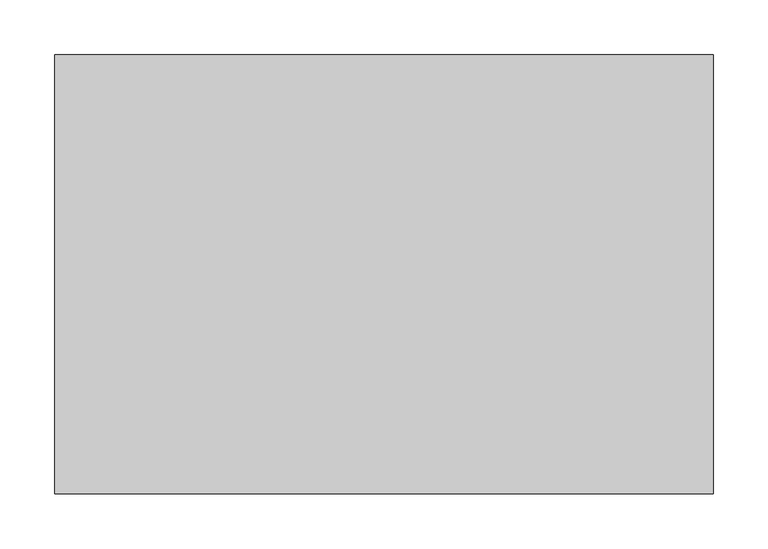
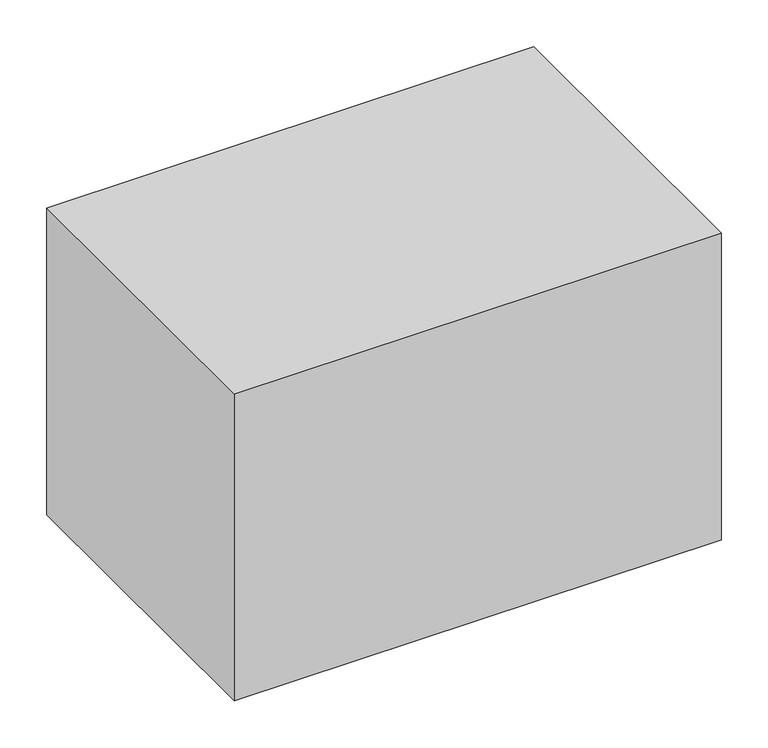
"""IFC4 building model written with IfcOpenShell, lengths in millimetres: proxy geometry, Movél19 : Movél."""

import ifcopenshell
import ifcopenshell.guid

model = None  # the IFC model being written
_history = None  # IfcOwnerHistory: only IFC2X3 demands one
_inside = {}  # id of a spatial element -> (the spatial element, [elements in it])
_under = {}  # id of a project, library or spatial element -> (it, [spatial elements below it])
_declared = {}  # id of a project -> (the project, [libraries it declares])
_typed = {}  # id of a type object -> (the type object, [elements of that type])
_made_of = {}  # id of a material, layer set ... -> (it, [elements and type objects made of it])


def new_model(schema):
    """Start an empty IFC model of exactly this schema.

    Asked for "IFC4X3", IfcOpenShell would pick the latest addendum, in which some entities
    have other attributes; the version numbers below select the first issue.
    IFC2X3 requires an IfcOwnerHistory on every rooted entity: one is made here for all.
    """
    global model, _history
    if schema == "IFC4X3":
        model = ifcopenshell.file(schema_version=(4, 3, 0, 0))
    else:
        model = ifcopenshell.file(schema=schema)
    _inside.clear()
    _under.clear()
    _declared.clear()
    _typed.clear()
    _made_of.clear()
    _history = None
    if model.schema == "IFC2X3":
        org = make("IfcOrganization", Name="unknown")
        user = make(
            "IfcPersonAndOrganization",
            ThePerson=make("IfcPerson", FamilyName="unknown"),
            TheOrganization=org,
        )
        app = make(
            "IfcApplication",
            ApplicationDeveloper=org,
            Version="unknown",
            ApplicationFullName="unknown",
            ApplicationIdentifier="unknown",
        )
        _history = make(
            "IfcOwnerHistory",
            OwningUser=user,
            OwningApplication=app,
            ChangeAction="ADDED",
            CreationDate=0,
        )
    return model


def make(cls, **values):
    """One entity of the class cls with the attributes given. An attribute that is None is left unset."""
    return model.create_entity(
        cls, **{name: value for name, value in values.items() if value is not None}
    )


def rooted(cls, **values):
    """An entity with a GlobalId (a new one), such as an element, a storey or a relation."""
    return make(cls, GlobalId=ifcopenshell.guid.new(), OwnerHistory=_history, **values)


def si_unit(unit_type, name, prefix=None):
    """IfcSIUnit, for example si_unit("LENGTHUNIT", "METRE", prefix="MILLI")."""
    return make("IfcSIUnit", UnitType=unit_type, Prefix=prefix, Name=name)


def assignment(units):
    """IfcUnitAssignment: the units of a project."""
    return None if units is None else make("IfcUnitAssignment", Units=units)


def point(xyz):
    """IfcCartesianPoint."""
    return None if xyz is None else make("IfcCartesianPoint", Coordinates=xyz)


def direction(xyz):
    """IfcDirection."""
    return None if xyz is None else make("IfcDirection", DirectionRatios=xyz)


def frame(location, z_axis=None, x_axis=None):
    """IfcAxis2Placement3D, a coordinate frame: its origin and axes. An axis left out is left unset."""
    return make(
        "IfcAxis2Placement3D",
        Location=point(location),
        Axis=direction(z_axis),
        RefDirection=direction(x_axis),
    )


def origin():
    """The frame at (0, 0, 0) with its axes left unset."""
    return frame((0.0, 0.0, 0.0))


def place(relative_to, where):
    """IfcLocalPlacement: puts the frame where relative to a parent placement (None: the world)."""
    return make(
        "IfcLocalPlacement", PlacementRelTo=relative_to, RelativePlacement=where
    )


def context(
    kind, dimensions, precision=None, world=None, true_north=None, identifier=None
):
    """IfcGeometricRepresentationContext, for example the 3D "Model" context."""
    return make(
        "IfcGeometricRepresentationContext",
        ContextIdentifier=identifier,
        ContextType=kind,
        CoordinateSpaceDimension=dimensions,
        Precision=precision,
        WorldCoordinateSystem=world,
        TrueNorth=true_north,
    )


def project(units=None, contexts=None):
    """IfcProject with its units and contexts."""
    return rooted(
        "IfcProject",
        Name="project",
        RepresentationContexts=contexts,
        UnitsInContext=assignment(units),
    )


def spatial(cls, under=None, at=None, **own):
    """A site, building, storey or space (cls), placed at a placement, below another one or the project."""
    s = rooted(cls, ObjectPlacement=at, **own)
    if under is not None:
        _under.setdefault(under.id(), (under, []))[1].append(s)
    return s


def polyline(points):
    """IfcPolyline through the points."""
    return make("IfcPolyline", Points=[point(p) for p in points])


def outline(outer, holes=None, kind="AREA"):
    """IfcArbitraryClosedProfileDef: a profile drawn as a closed curve; with holes, ...WithVoids."""
    if holes is None:
        return make("IfcArbitraryClosedProfileDef", ProfileType=kind, OuterCurve=outer)
    return make(
        "IfcArbitraryProfileDefWithVoids",
        ProfileType=kind,
        OuterCurve=outer,
        InnerCurves=holes,
    )


def extrude(swept, where, along, depth):
    """IfcExtrudedAreaSolid: the profile swept, set in the frame where, extruded along a direction by depth."""
    return make(
        "IfcExtrudedAreaSolid",
        SweptArea=swept,
        Position=where,
        ExtrudedDirection=direction(along),
        Depth=depth,
    )


def shape(context_of_items, identifier, shape_type, items):
    """IfcShapeRepresentation: the items that make up one representation, for example the "Body"."""
    return make(
        "IfcShapeRepresentation",
        ContextOfItems=context_of_items,
        RepresentationIdentifier=identifier,
        RepresentationType=shape_type,
        Items=items,
    )


def source(mapping_origin, context_of_items, identifier, shape_type, items):
    """IfcRepresentationMap: a shape defined once, which mapped items show again and again."""
    return make(
        "IfcRepresentationMap",
        MappingOrigin=mapping_origin,
        MappedRepresentation=shape(context_of_items, identifier, shape_type, items),
    )


def transform(
    local_origin,
    x_axis=None,
    y_axis=None,
    z_axis=None,
    scale=None,
    scale2=None,
    scale3=None,
    uniform=True,
):
    """IfcCartesianTransformationOperator3D, or its non-uniform kind. x_axis, y_axis, z_axis: its Axis1, 2, 3."""
    if uniform:
        return make(
            "IfcCartesianTransformationOperator3D",
            Axis1=direction(x_axis),
            Axis2=direction(y_axis),
            LocalOrigin=point(local_origin),
            Scale=scale,
            Axis3=direction(z_axis),
        )
    return make(
        "IfcCartesianTransformationOperator3DnonUniform",
        Axis1=direction(x_axis),
        Axis2=direction(y_axis),
        LocalOrigin=point(local_origin),
        Scale=scale,
        Axis3=direction(z_axis),
        Scale2=scale2,
        Scale3=scale3,
    )


def mapped(mapping_source, mapping_target):
    """IfcMappedItem: shows the shape of a source again, moved by a transform."""
    return make(
        "IfcMappedItem", MappingSource=mapping_source, MappingTarget=mapping_target
    )


def made_of(thing, what):
    """Note that an element or type object is made of a material, layer set ...; save() writes the relation."""
    if what is not None:
        _made_of.setdefault(what.id(), (what, []))[1].append(thing)
    return thing


def element(
    cls,
    number,
    at=None,
    inside=None,
    cuts=None,
    type_object=None,
    material=None,
    context=None,
    identifier="Body",
    shape_type=None,
    held_by="IfcProductDefinitionShape",
    body=None,
    shapes=None,
    **own,
):
    """One element of the class cls, such as IfcWall. Its Tag is "e" and its number.

    at: its placement. inside: the storey or other place that contains it. cuts: it is an
    opening in that element (IfcRelVoidsElement). A single representation is given by context,
    identifier, shape_type and body (its items); several are given by shapes. held_by: the class
    of the entity that holds the representations. save() writes the other relations.
    """
    e = rooted(cls, Tag="e%d" % number, ObjectPlacement=at, **own)
    if body is not None:
        shapes = [shape(context, identifier, shape_type, body)]
    if shapes is not None:
        e.Representation = make(held_by, Representations=shapes)
    if inside is not None:
        _inside.setdefault(inside.id(), (inside, []))[1].append(e)
    if cuts is not None:
        rooted(
            "IfcRelVoidsElement", RelatingBuildingElement=cuts, RelatedOpeningElement=e
        )
    if type_object is not None:
        _typed.setdefault(type_object.id(), (type_object, []))[1].append(e)
    return made_of(e, material)


def aggregate(whole, parts):
    """IfcRelAggregates: a whole, such as a stair, and the parts it consists of."""
    return rooted("IfcRelAggregates", RelatingObject=whole, RelatedObjects=parts)


def save(model, path):
    """Write the relations noted so far, then the file.

    IfcRelAggregates (storeys below a building ...), IfcRelContainedInSpatialStructure (elements
    in a storey), IfcRelDefinesByType, IfcRelAssociatesMaterial and IfcRelDeclares: one each for
    every whole, place, type object, material and project.
    """
    for whole, parts in _under.values():
        aggregate(whole, parts)
    for where, things in _inside.values():
        rooted(
            "IfcRelContainedInSpatialStructure",
            RelatedElements=things,
            RelatingStructure=where,
        )
    for kind, things in _typed.values():
        rooted("IfcRelDefinesByType", RelatedObjects=things, RelatingType=kind)
    for what, things in _made_of.values():
        rooted("IfcRelAssociatesMaterial", RelatedObjects=things, RelatingMaterial=what)
    for by, libraries in _declared.values():
        rooted("IfcRelDeclares", RelatingContext=by, RelatedDefinitions=libraries)
    model.write(path)


def generic_models_8c1d5b6c(model_context):
    return source(origin(), model_context, "Body", "SweptSolid", [
        extrude(outline(polyline([(34488.6646378, 16442.1029258), (34488.6646378, 16042.1029258), (33888.6646378, 16042.1029258), (33888.6646378, 16442.1029258), (34488.6646378, 16442.1029258)])), frame((0.0, 0.0, 400.0), z_axis=(0.0, 0.0, 1.0), x_axis=(1.0, 0.0, 0.0)), (0.0, 0.0, 1.0), 400.0),
    ])


if __name__ == "__main__":
    model = new_model("IFC4")
    model_context = context("Model", 3, world=origin())
    ifc_project = project(units=[si_unit("LENGTHUNIT", "METRE", prefix="MILLI")], contexts=[model_context])
    site = spatial("IfcSite", under=ifc_project)
    building = spatial("IfcBuilding", under=site)
    placement = place(None, origin())
    generic_models_shape = generic_models_8c1d5b6c(model_context)
    element("IfcBuildingElementProxy", 1, Name="Movél19 : Movél", ObjectType="Movél19 : Movél", at=placement, inside=building, context=model_context, shape_type="MappedRepresentation", body=[
        mapped(generic_models_shape, transform((0.0, 0.0, 0.0), x_axis=(1.0, 0.0, 0.0), y_axis=(0.0, 1.0, 0.0), z_axis=(0.0, 0.0, 1.0))),
    ])
    save(model, "model.ifc")
